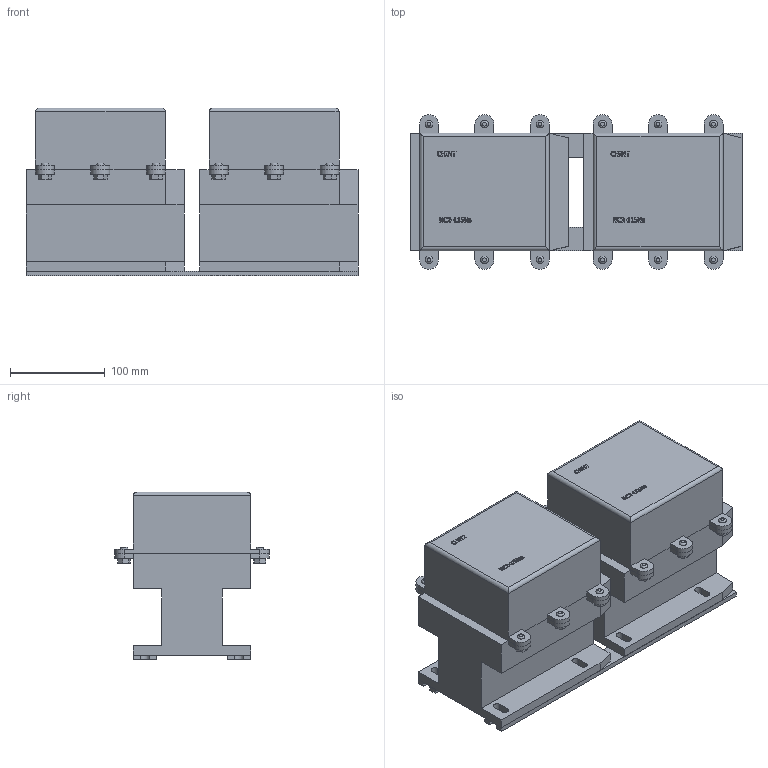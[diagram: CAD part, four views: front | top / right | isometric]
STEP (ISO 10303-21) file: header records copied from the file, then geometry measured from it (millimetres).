
FILE_DESCRIPTION(/* description */ (''),/* implementation_level */ '2;1');
FILE_NAME(/* name */ 'D:\CHINT2\NC2-N\NC2-115Ns 230В 50Гц (горизонтальная установка).stp',/* time_stamp */ '2017-11-12T21:02:30+03:00',/* author */ ('RSagdiev'),/* organization */ (''),/* preprocessor_version */ 'ST-DEVELOPER v16.5',/* originating_system */ 'Autodesk Inventor 2017',/* authorisation */ '');
FILE_SCHEMA (('AUTOMOTIVE_DESIGN { 1 0 10303 214 3 1 1 }'));
Length unit declared in the file: millimetre
Products named in the file (1): NC2-115Ns 230В 50Гц (\X2\0433043E044004380437
043E043D04420430043B044C043D0430044F\X0\ \X2\0443044104420430043D043E0432
043A0430\X0\)
Bounding box: 350 x 163 x 177.1 mm (x, y, z)
Volume: 5547236.3 mm3; surface area: 436089.1 mm2
Topology: 30 solids, 30 shells, 736 faces, 1956 edges, 1308 vertices
Faces by surface type: plane 522, bspline 162, cylinder 52
Entity records: 24208 total; most frequent: CARTESIAN_POINT 6733, ORIENTED_EDGE 3912, DIRECTION 2938, EDGE_CURVE 1956, LINE 1500, VECTOR 1500, VERTEX_POINT 1308, EDGE_LOOP 780
